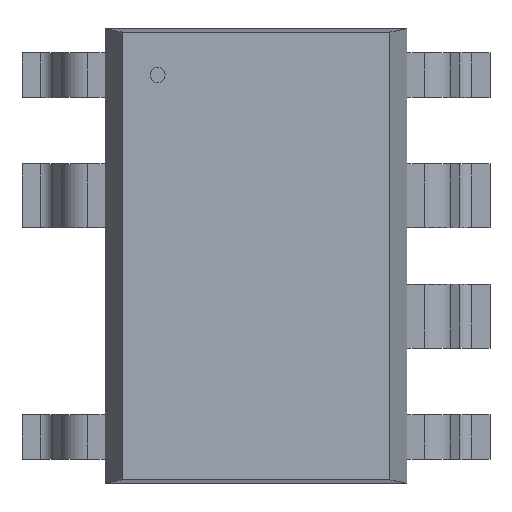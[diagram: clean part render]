
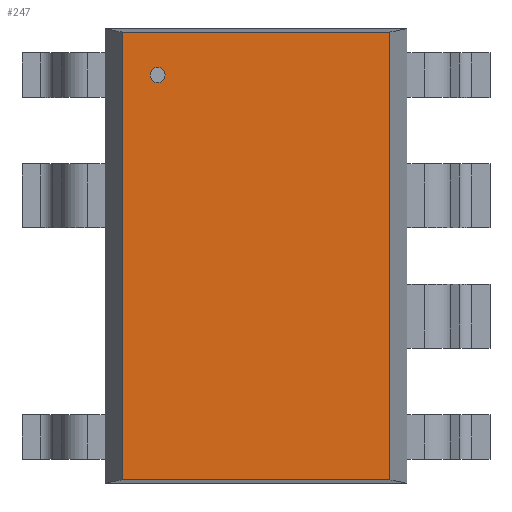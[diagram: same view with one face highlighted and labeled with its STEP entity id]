
A CAD part, top view. The second image highlights one B-rep face of the part: STEP entity #247.
In plain terms, the highlighted planar face has unit normal (0, 0, 1).
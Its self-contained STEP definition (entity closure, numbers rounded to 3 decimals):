
#247=ADVANCED_FACE('',(#253),#248,.T.);
#248=PLANE('',#249);
#249=AXIS2_PLACEMENT_3D('',#250,#251,#252);
#250=CARTESIAN_POINT('',(-2.819,-4.712,2.692));
#251=DIRECTION('',(0.0,0.0,1.0));
#252=DIRECTION('',(0.,1.,0.));
#253=FACE_OUTER_BOUND('',#254,.T.);
#254=EDGE_LOOP('',(#255,#265,#275,#285));
#258=CARTESIAN_POINT('',(2.819,-4.712,2.692));
#257=VERTEX_POINT('',#258);
#260=CARTESIAN_POINT('',(-2.819,-4.712,2.692));
#259=VERTEX_POINT('',#260);
#256=EDGE_CURVE('',#257,#259,#261,.T.);
#261=LINE('',#258,#263);
#263=VECTOR('',#264,5.639);
#264=DIRECTION('',(-1.0,0.0,0.0));
#255=ORIENTED_EDGE('',*,*,#256,.F.);
#268=CARTESIAN_POINT('',(2.819,4.712,2.692));
#267=VERTEX_POINT('',#268);
#266=EDGE_CURVE('',#267,#257,#271,.T.);
#271=LINE('',#268,#273);
#273=VECTOR('',#274,9.423);
#274=DIRECTION('',(0.0,-1.0,0.0));
#265=ORIENTED_EDGE('',*,*,#266,.F.);
#278=CARTESIAN_POINT('',(-2.819,4.712,2.692));
#277=VERTEX_POINT('',#278);
#276=EDGE_CURVE('',#277,#267,#281,.T.);
#281=LINE('',#278,#283);
#283=VECTOR('',#284,5.639);
#284=DIRECTION('',(1.0,0.0,0.0));
#275=ORIENTED_EDGE('',*,*,#276,.F.);
#286=EDGE_CURVE('',#259,#277,#291,.T.);
#291=LINE('',#260,#293);
#293=VECTOR('',#294,9.423);
#294=DIRECTION('',(0.0,1.0,0.0));
#285=ORIENTED_EDGE('',*,*,#286,.F.);
